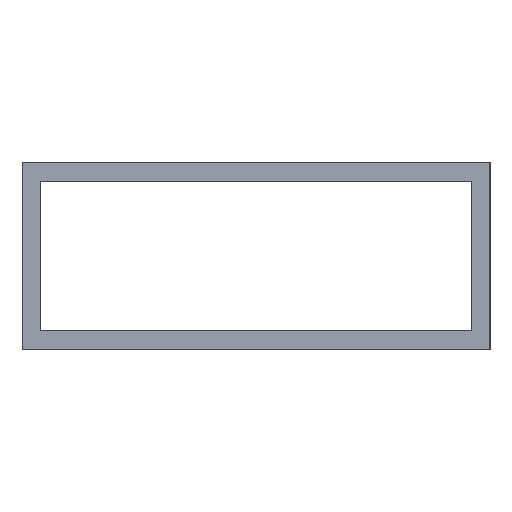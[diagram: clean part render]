
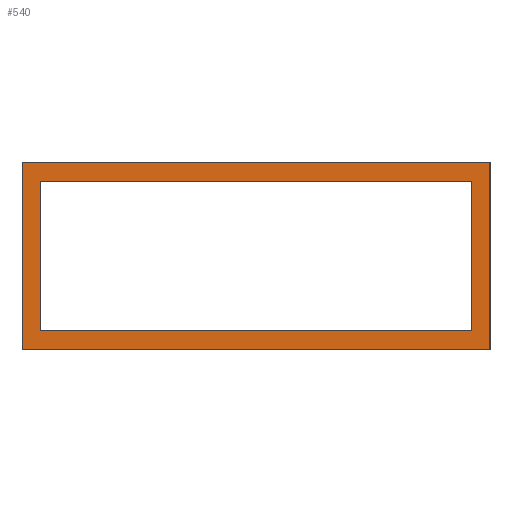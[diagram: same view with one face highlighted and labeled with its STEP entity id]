
A CAD part, left-side view. The second image highlights one B-rep face of the part: STEP entity #540.
In plain terms, the highlighted planar face has unit normal (-1, 0, 0).
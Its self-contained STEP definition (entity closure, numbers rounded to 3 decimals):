
#278=ORIENTED_EDGE('',*,*,#384,.T.);
#279=ORIENTED_EDGE('',*,*,#375,.T.);
#280=ORIENTED_EDGE('',*,*,#379,.T.);
#281=ORIENTED_EDGE('',*,*,#382,.T.);
#282=ORIENTED_EDGE('',*,*,#386,.T.);
#283=ORIENTED_EDGE('',*,*,#387,.T.);
#284=ORIENTED_EDGE('',*,*,#388,.T.);
#285=ORIENTED_EDGE('',*,*,#389,.T.);
#311=VECTOR('',#425,1.);
#315=VECTOR('',#431,1.);
#318=VECTOR('',#436,1.);
#320=VECTOR('',#440,1.);
#322=VECTOR('',#444,1.);
#323=VECTOR('',#445,1.);
#324=VECTOR('',#446,1.);
#325=VECTOR('',#447,1.);
#335=LINE('',#471,#311);
#339=LINE('',#479,#315);
#342=LINE('',#485,#318);
#344=LINE('',#488,#320);
#346=LINE('',#493,#322);
#347=LINE('',#495,#323);
#348=LINE('',#497,#324);
#349=LINE('',#498,#325);
#359=VERTEX_POINT('',#468);
#360=VERTEX_POINT('',#470);
#363=VERTEX_POINT('',#477);
#365=VERTEX_POINT('',#483);
#366=VERTEX_POINT('',#491);
#367=VERTEX_POINT('',#492);
#368=VERTEX_POINT('',#494);
#369=VERTEX_POINT('',#496);
#375=EDGE_CURVE('',#360,#359,#335,.T.);
#379=EDGE_CURVE('',#359,#363,#339,.T.);
#382=EDGE_CURVE('',#363,#365,#342,.T.);
#384=EDGE_CURVE('',#365,#360,#344,.T.);
#386=EDGE_CURVE('',#366,#367,#346,.T.);
#387=EDGE_CURVE('',#367,#368,#347,.T.);
#388=EDGE_CURVE('',#368,#369,#348,.T.);
#389=EDGE_CURVE('',#369,#366,#349,.T.);
#402=EDGE_LOOP('',(#278,#279,#280,#281));
#403=EDGE_LOOP('',(#282,#283,#284,#285));
#414=FACE_BOUND('',#402,.T.);
#415=FACE_BOUND('',#403,.T.);
#425=DIRECTION('',(0.,0.,20.));
#431=DIRECTION('',(0.,50.,0.));
#436=DIRECTION('',(0.,0.,-20.));
#440=DIRECTION('',(0.,-50.,0.));
#442=DIRECTION('',(-1.,0.,0.));
#443=DIRECTION('',(0.,1.,0.));
#444=DIRECTION('',(0.,0.,-16.));
#445=DIRECTION('',(0.,46.,0.));
#446=DIRECTION('',(0.,0.,16.));
#447=DIRECTION('',(0.,-46.,0.));
#468=CARTESIAN_POINT('',(0.,-50.,10.));
#470=CARTESIAN_POINT('',(0.,-50.,-10.));
#471=CARTESIAN_POINT('',(0.,-50.,-10.));
#477=CARTESIAN_POINT('',(0.,0.,10.));
#479=CARTESIAN_POINT('',(0.,-50.,10.));
#483=CARTESIAN_POINT('',(0.,0.,-10.));
#485=CARTESIAN_POINT('',(0.,0.,10.));
#488=CARTESIAN_POINT('',(0.,0.,-10.));
#490=CARTESIAN_POINT('',(0.,0.,-10.));
#491=CARTESIAN_POINT('',(0.,-48.,8.));
#492=CARTESIAN_POINT('',(0.,-48.,-8.));
#493=CARTESIAN_POINT('',(0.,-48.,8.));
#494=CARTESIAN_POINT('',(0.,-2.,-8.));
#495=CARTESIAN_POINT('',(0.,-48.,-8.));
#496=CARTESIAN_POINT('',(0.,-2.,8.));
#497=CARTESIAN_POINT('',(0.,-2.,-8.));
#498=CARTESIAN_POINT('',(0.,-2.,8.));
#520=AXIS2_PLACEMENT_3D('',#490,#442,#443);
#530=PLANE('',#520);
#540=ADVANCED_FACE('',(#414,#415),#530,.T.);
